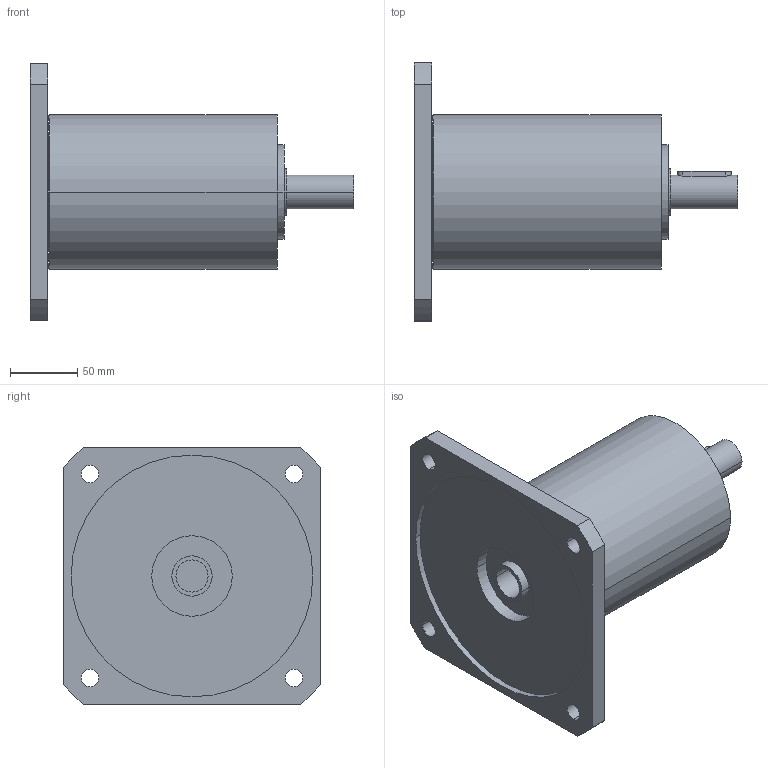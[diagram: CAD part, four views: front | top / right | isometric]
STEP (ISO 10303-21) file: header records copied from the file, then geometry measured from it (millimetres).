
FILE_DESCRIPTION(('CoCreate Modeling STEP Export'),'2;1');
FILE_NAME('GPR125_ig-9-12-16-20-28-35_25_B14_24_P09.stp','2014-08-26T14:11:20',(''),(''),'CoCreate Modeling STEP processor for AP214 (Solid Model)','CoCreate Modeling 16.00C 25-Feb-2009 (C) Parametric Technology GmbH','');
FILE_SCHEMA(('AUTOMOTIVE_DESIGN { 1 0 10303 214 1 1 1 1 }'));
Length unit declared in the file: millimetre
Products named in the file (2): GPR125_ig-9-12-16-20-28-35_25_B14_24_P09
Assembly tree (1 placements, depth 2):
  GPR125_ig-9-12-16-20-28-35_25_B14_24_P09
    GPR125_ig-9-12-16-20-28-35_25_B14_24_P09
Bounding box: 241 x 192 x 192 mm (x, y, z)
Volume: 2115483.4 mm3; surface area: 175406.9 mm2
Topology: 1 solids, 1 shells, 68 faces, 188 edges, 134 vertices
Faces by surface type: cylinder 42, plane 22, cone 4
Entity records: 1928 total; most frequent: ORIENTED_EDGE 372, CARTESIAN_POINT 363, DIRECTION 258, EDGE_CURVE 186, VERTEX_POINT 134, AXIS2_PLACEMENT_3D 97, EDGE_LOOP 90, FACE_OUTER_BOUND 68
